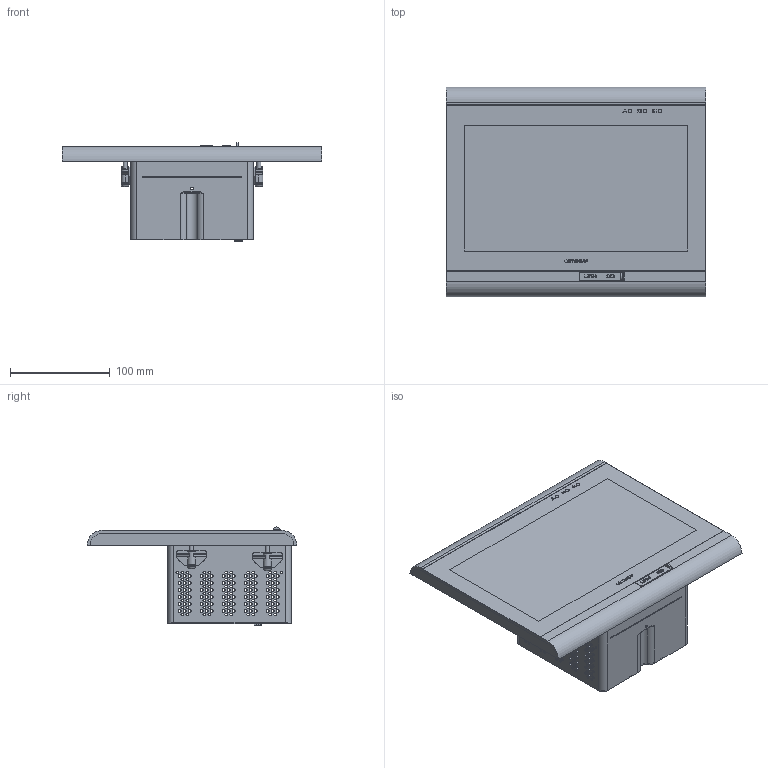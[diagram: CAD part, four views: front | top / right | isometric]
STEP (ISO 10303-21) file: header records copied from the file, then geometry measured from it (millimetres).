
FILE_DESCRIPTION (( 'STEP AP214' ), '1' );
FILE_NAME ('Á19-00.00_PLÑ 10i 03.00.STEP', '2023-10-06T11:38:04', ( '' ), ( '' ), 'SwSTEP 2.0', 'SolidWorks 2021', '' );
FILE_SCHEMA (( 'AUTOMOTIVE_DESIGN' ));
Length unit declared in the file: millimetre
Products named in the file (1): Á19-00.00_PLÑ 10i 03.00
Bounding box: 260 x 210 x 98.2 mm (x, y, z)
Surface area: 340283.8 mm2 (no closed solid volume)
Topology: 0 solids, 87 shells, 1142 faces, 5751 edges, 4603 vertices
Faces by surface type: plane 548, cylinder 500, cone 42, bspline 34, torus 18
Full cylindrical faces by diameter (mm): 2.4 x146, 2.5 x3, 3 x180, 4 x8, 5.5 x14, 8 x4
Entity records: 70384 total; most frequent: CARTESIAN_POINT 17513, DIRECTION 7749, ORIENTED_EDGE 6725, EDGE_CURVE 5019, VERTEX_POINT 4275, VECTOR 3073, LINE 3073, AXIS2_PLACEMENT_3D 2338
